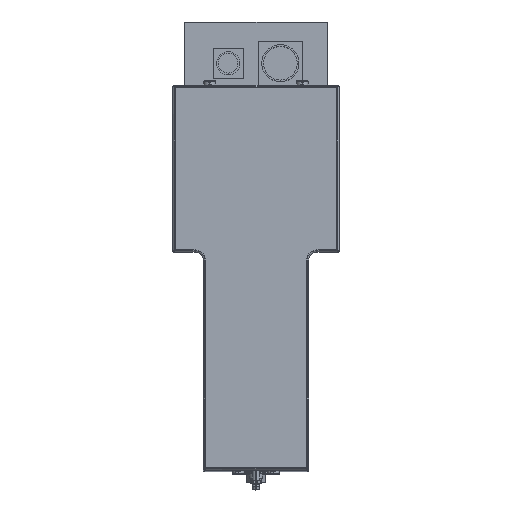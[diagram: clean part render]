
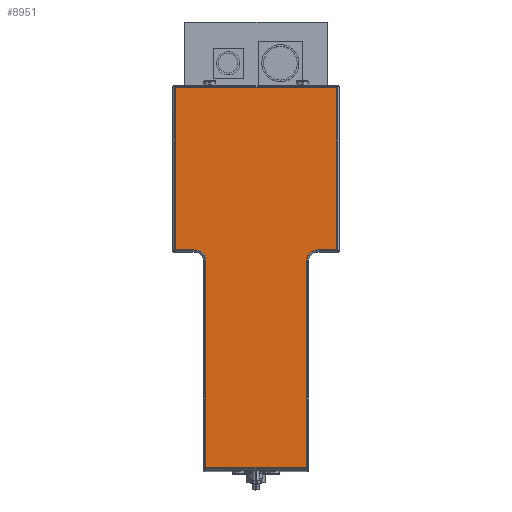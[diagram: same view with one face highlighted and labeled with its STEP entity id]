
A CAD part, top view. The second image highlights one B-rep face of the part: STEP entity #8951.
In plain terms, the highlighted planar face has unit normal (0, 0, 1).
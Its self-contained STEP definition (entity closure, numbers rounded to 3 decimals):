
#1590 = CIRCLE ( 'NONE', #4760, 9. ) ;
#1735 = LINE ( 'NONE', #34359, #6204 ) ;
#2850 = CARTESIAN_POINT ( 'NONE',  ( 61.014, -161.771, 1216. ) ) ;
#3326 = VECTOR ( 'NONE', #25215, 1000. ) ;
#3813 = EDGE_CURVE ( 'NONE', #12037, #26221, #12253, .T. ) ;
#4457 = EDGE_CURVE ( 'NONE', #26374, #40644, #22078, .T. ) ;
#4469 = EDGE_LOOP ( 'NONE', ( #29517, #29006, #19577, #33753, #33230, #8689, #33192, #18811, #33974, #40786 ) ) ;
#4760 = AXIS2_PLACEMENT_3D ( 'NONE', #34500, #15701, #37652 ) ;
#4768 = VERTEX_POINT ( 'NONE', #5140 ) ;
#5140 = CARTESIAN_POINT ( 'NONE',  ( -25.986, -161.771, 1216. ) ) ;
#5680 = CARTESIAN_POINT ( 'NONE',  ( 63.014, -161.771, 1216. ) ) ;
#6204 = VECTOR ( 'NONE', #25054, 1000. ) ;
#6336 = LINE ( 'NONE', #5680, #38755 ) ;
#7001 = AXIS2_PLACEMENT_3D ( 'NONE', #12949, #34900, #16117 ) ;
#7105 = EDGE_CURVE ( 'NONE', #8595, #4768, #11979, .T. ) ;
#8595 = VERTEX_POINT ( 'NONE', #26275 ) ;
#8689 = ORIENTED_EDGE ( 'NONE', *, *, #30986, .T. ) ;
#8951 = ADVANCED_FACE ( 'NONE', ( #29809 ), #25828, .T. ) ;
#10681 = CARTESIAN_POINT ( 'NONE',  ( 61.014, 16.729, 1216. ) ) ;
#10901 = AXIS2_PLACEMENT_3D ( 'NONE', #35155, #13320, #35288 ) ;
#11725 = LINE ( 'NONE', #28344, #3326 ) ;
#11979 = LINE ( 'NONE', #12310, #19401 ) ;
#12037 = VERTEX_POINT ( 'NONE', #38582 ) ;
#12151 = DIRECTION ( 'NONE',  ( 1., 0., 0. ) ) ;
#12253 = LINE ( 'NONE', #34626, #19670 ) ;
#12310 = CARTESIAN_POINT ( 'NONE',  ( -25.986, -163.771, 1216. ) ) ;
#12671 = DIRECTION ( 'NONE',  ( 0., 1., 0. ) ) ;
#12949 = CARTESIAN_POINT ( 'NONE',  ( -34.986, 16.729, 1216. ) ) ;
#13165 = CARTESIAN_POINT ( 'NONE',  ( -34.986, 25.729, 1216. ) ) ;
#13320 = DIRECTION ( 'NONE',  ( 0., 0., 1. ) ) ;
#13836 = DIRECTION ( 'NONE',  ( 0., 1., 0. ) ) ;
#15000 = CARTESIAN_POINT ( 'NONE',  ( -34.986, 25.729, 1216. ) ) ;
#15701 = DIRECTION ( 'NONE',  ( 0., 0., -1. ) ) ;
#16117 = DIRECTION ( 'NONE',  ( 1., 0., 0. ) ) ;
#16717 = EDGE_CURVE ( 'NONE', #17652, #33554, #20933, .T. ) ;
#17100 = VERTEX_POINT ( 'NONE', #37688 ) ;
#17652 = VERTEX_POINT ( 'NONE', #2850 ) ;
#17858 = VERTEX_POINT ( 'NONE', #25843 ) ;
#18811 = ORIENTED_EDGE ( 'NONE', *, *, #24036, .T. ) ;
#19401 = VECTOR ( 'NONE', #37426, 1000. ) ;
#19577 = ORIENTED_EDGE ( 'NONE', *, *, #24128, .T. ) ;
#19670 = VECTOR ( 'NONE', #12671, 1000. ) ;
#20933 = LINE ( 'NONE', #10681, #36586 ) ;
#22078 = LINE ( 'NONE', #13165, #31365 ) ;
#22241 = VECTOR ( 'NONE', #27610, 1000. ) ;
#24036 = EDGE_CURVE ( 'NONE', #4768, #17652, #6336, .T. ) ;
#24128 = EDGE_CURVE ( 'NONE', #26221, #17100, #11725, .T. ) ;
#25054 = DIRECTION ( 'NONE',  ( 1., 0., 0. ) ) ;
#25215 = DIRECTION ( 'NONE',  ( -1., 0., 0. ) ) ;
#25828 = PLANE ( 'NONE',  #10901 ) ;
#25843 = CARTESIAN_POINT ( 'NONE',  ( 70.014, 25.729, 1216. ) ) ;
#26221 = VERTEX_POINT ( 'NONE', #31322 ) ;
#26275 = CARTESIAN_POINT ( 'NONE',  ( -25.986, 16.729, 1216. ) ) ;
#26374 = VERTEX_POINT ( 'NONE', #38140 ) ;
#27280 = EDGE_CURVE ( 'NONE', #33554, #17858, #1590, .T. ) ;
#27610 = DIRECTION ( 'NONE',  ( 0., -1., 0. ) ) ;
#28344 = CARTESIAN_POINT ( 'NONE',  ( -53.986, 165.729, 1216. ) ) ;
#29006 = ORIENTED_EDGE ( 'NONE', *, *, #3813, .T. ) ;
#29517 = ORIENTED_EDGE ( 'NONE', *, *, #34058, .T. ) ;
#29809 = FACE_OUTER_BOUND ( 'NONE', #4469, .T. ) ;
#30770 = CARTESIAN_POINT ( 'NONE',  ( -51.986, 23.729, 1216. ) ) ;
#30986 = EDGE_CURVE ( 'NONE', #40644, #8595, #40664, .T. ) ;
#31322 = CARTESIAN_POINT ( 'NONE',  ( 87.014, 165.729, 1216. ) ) ;
#31365 = VECTOR ( 'NONE', #35118, 1000. ) ;
#32095 = CARTESIAN_POINT ( 'NONE',  ( 61.014, 16.729, 1216. ) ) ;
#33192 = ORIENTED_EDGE ( 'NONE', *, *, #7105, .T. ) ;
#33230 = ORIENTED_EDGE ( 'NONE', *, *, #4457, .T. ) ;
#33554 = VERTEX_POINT ( 'NONE', #32095 ) ;
#33753 = ORIENTED_EDGE ( 'NONE', *, *, #36796, .T. ) ;
#33974 = ORIENTED_EDGE ( 'NONE', *, *, #16717, .T. ) ;
#34058 = EDGE_CURVE ( 'NONE', #17858, #12037, #1735, .T. ) ;
#34359 = CARTESIAN_POINT ( 'NONE',  ( 89.014, 25.729, 1216. ) ) ;
#34500 = CARTESIAN_POINT ( 'NONE',  ( 70.014, 16.729, 1216. ) ) ;
#34626 = CARTESIAN_POINT ( 'NONE',  ( 87.014, 167.729, 1216. ) ) ;
#34900 = DIRECTION ( 'NONE',  ( 0., 0., -1. ) ) ;
#35118 = DIRECTION ( 'NONE',  ( 1., 0., 0. ) ) ;
#35155 = CARTESIAN_POINT ( 'NONE',  ( -34.986, 16.729, 1216. ) ) ;
#35288 = DIRECTION ( 'NONE',  ( 1., 0., 0. ) ) ;
#36586 = VECTOR ( 'NONE', #13836, 1000. ) ;
#36796 = EDGE_CURVE ( 'NONE', #17100, #26374, #38899, .T. ) ;
#37426 = DIRECTION ( 'NONE',  ( 0., -1., 0. ) ) ;
#37652 = DIRECTION ( 'NONE',  ( 1., 0., 0. ) ) ;
#37688 = CARTESIAN_POINT ( 'NONE',  ( -51.986, 165.729, 1216. ) ) ;
#38140 = CARTESIAN_POINT ( 'NONE',  ( -51.986, 25.729, 1216. ) ) ;
#38582 = CARTESIAN_POINT ( 'NONE',  ( 87.014, 25.729, 1216. ) ) ;
#38755 = VECTOR ( 'NONE', #12151, 1000. ) ;
#38899 = LINE ( 'NONE', #30770, #22241 ) ;
#40644 = VERTEX_POINT ( 'NONE', #15000 ) ;
#40664 = CIRCLE ( 'NONE', #7001, 9. ) ;
#40786 = ORIENTED_EDGE ( 'NONE', *, *, #27280, .T. ) ;
